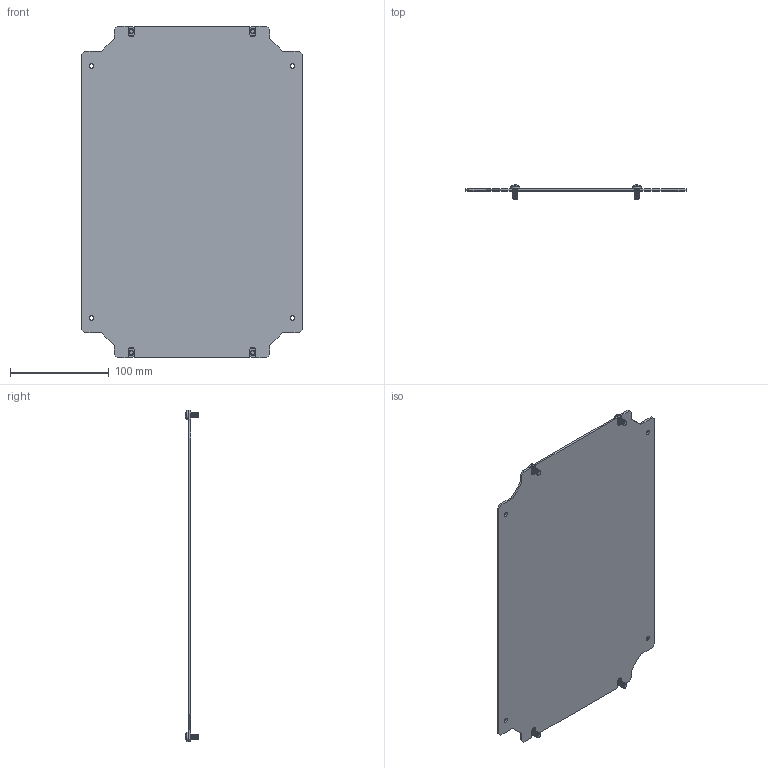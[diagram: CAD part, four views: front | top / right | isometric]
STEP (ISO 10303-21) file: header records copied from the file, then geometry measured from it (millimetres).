
FILE_DESCRIPTION (( 'STEP AP214' ), '1' );
FILE_NAME ('943.253--DM Small 250 W x 350 H Mounting Plate.STEP', '2020-12-03T10:26:40', ( '' ), ( '' ), 'SwSTEP 2.0', 'SolidWorks 2019', '' );
FILE_SCHEMA (( 'AUTOMOTIVE_DESIGN' ));
Length unit declared in the file: millimetre
Products named in the file (8): M5x10; 943.253--DM Small 250 W x 350 H Mounting Plate; M5x10_ISO 7045 - M5 x 10 - Z --- 10C; DM Small Montaj Plakasi 2mm; DM Small Montaj Plakasi 2mm_PP 20.0106 - 250x350
Assembly tree (5 placements, depth 2):
  M5x10
  M5x10
  943.253--DM Small 250 W x 350 H Mounting Plate
    DM Small Montaj Plakasi 2mm_PP 20.0106 - 250x350
    M5x10_ISO 7045 - M5 x 10 - Z --- 10C  x4
  M5x10
  DM Small Montaj Plakasi 2mm
Bounding box: 223 x 13.63 x 335.12 mm (x, y, z)
Volume: 144271.9 mm3; surface area: 147033.7 mm2
Topology: 5 solids, 5 shells, 460 faces, 1214 edges, 760 vertices
Faces by surface type: cone 208, cylinder 118, plane 110, torus 16, sphere 8
Entity records: 5136 total; most frequent: DIRECTION 922, CARTESIAN_POINT 866, ORIENTED_EDGE 828, EDGE_CURVE 414, AXIS2_PLACEMENT_3D 353, VERTEX_POINT 265, VECTOR 216, LINE 216
